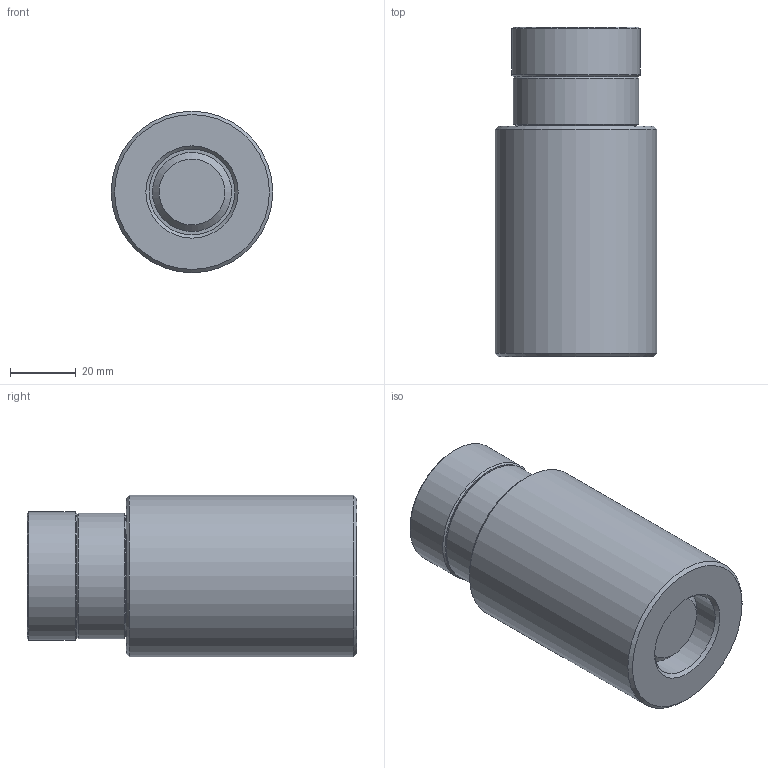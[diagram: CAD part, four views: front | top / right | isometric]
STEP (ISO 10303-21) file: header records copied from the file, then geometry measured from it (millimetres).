
FILE_DESCRIPTION(/* description */ (''),/* implementation_level */ '2;1');
FILE_NAME(/* name */ '',/* time_stamp */ '2025-10-07T08:37:20+03:00',/* author */ ('User'),/* organization */ (''),/* preprocessor_version */ 'ST-DEVELOPER v19.2',/* originating_system */ 'Autodesk Inventor 2024',/* authorisation */ '');
FILE_SCHEMA (('AUTOMOTIVE_DESIGN { 1 0 10303 214 3 1 1 }'));
Length unit declared in the file: millimetre
Products named in the file (3): Домкрат винтовой 
S-300; Основание; Домкрат винтовой 
S-300_1
Assembly tree (2 placements, depth 2):
  Домкрат винтовой 
S-300
    Основание
    Домкрат винтовой 
S-300_1
Bounding box: 49 x 100 x 49 mm (x, y, z)
Volume: 166136 mm3; surface area: 33164.4 mm2
Topology: 3 solids, 3 shells, 24 faces, 48 edges, 32 vertices
Faces by surface type: cone 9, plane 8, cylinder 7
Full cylindrical faces by diameter (mm): 20 x2, 24 x1, 26 x1, 38 x1, 39 x1, 49 x1
Entity records: 758 total; most frequent: DIRECTION 138, CARTESIAN_POINT 109, ORIENTED_EDGE 96, AXIS2_PLACEMENT_3D 61, EDGE_CURVE 48, CIRCLE 32, VERTEX_POINT 32, EDGE_LOOP 30
